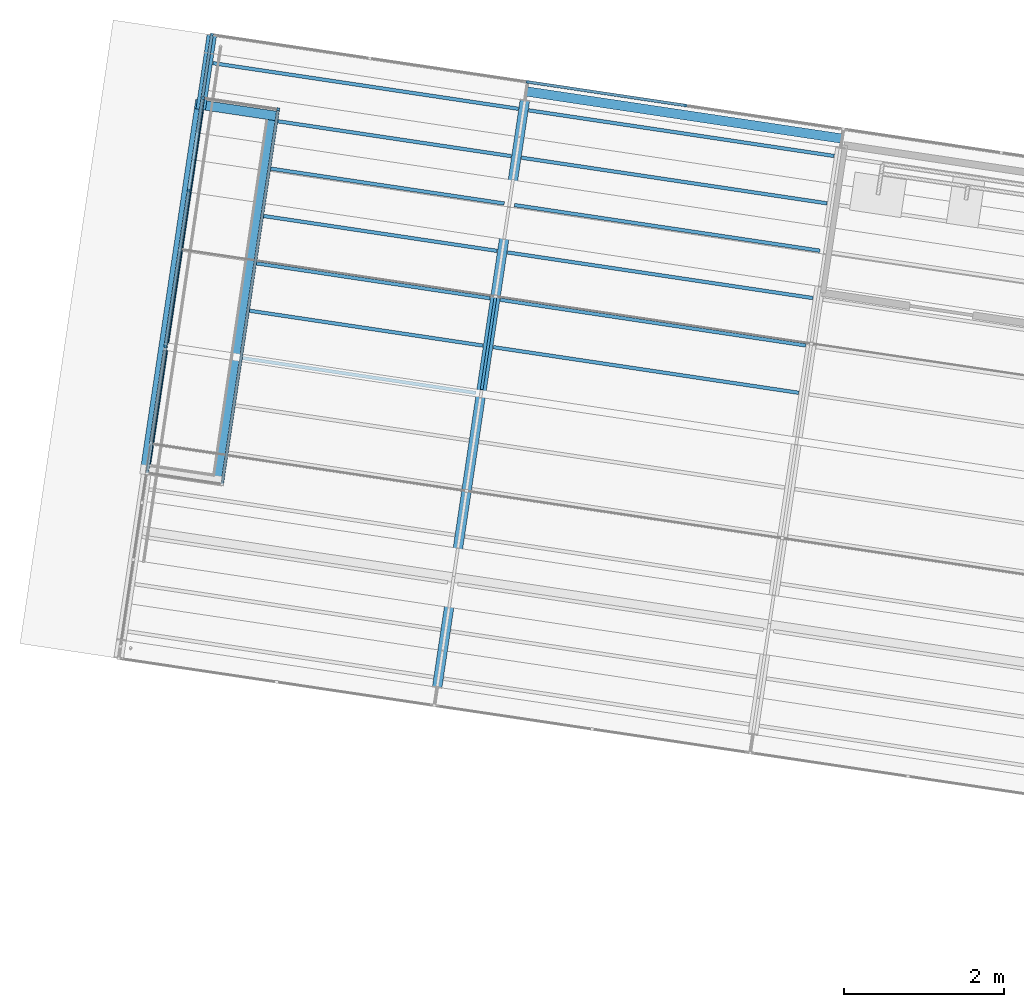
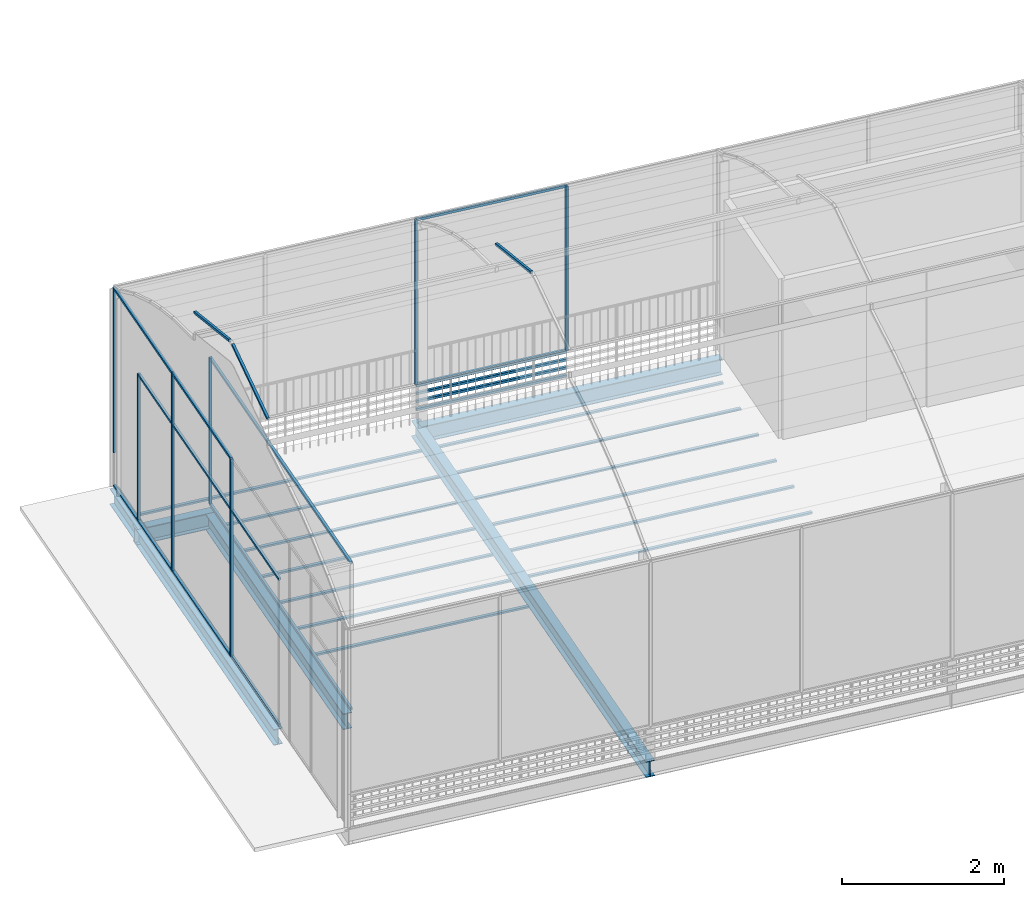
# One storey, part 7 of 34: 30 members, 19 beams, 1 element without a shape of its own.
"""IFC4 building model written with IfcOpenShell, lengths in metres."""

from ifc_helpers import new_model, si_unit, direction, frame, origin_with_axes, place, context, subcontext, project, spatial, polyline, rectangle, i_section, outline, extrude, material, material_profile, profile_set, profile_usage, type_object, element, aggregate, save


model = new_model("IFC4")

# Units and contexts
model_context = context("Model", 3, precision=1e-05, world=origin_with_axes(), true_north=direction((0.0, 1.0)))
body_context = subcontext(model_context, "Body", "Model", "MODEL_VIEW")
ifc_project = project(units=[si_unit("VOLUMEUNIT", "CUBIC_METRE"), si_unit("LENGTHUNIT", "METRE"), si_unit("AREAUNIT", "SQUARE_METRE")], contexts=[model_context])

# Site, building, storey
site_placement = place(None, origin_with_axes())
site = spatial("IfcSite", under=ifc_project, at=site_placement, Name="Lares · Rua das Mercês · artigo 4771")
building_placement = place(site_placement, frame((12.0, 10.2, 13.9), z_axis=(0.0, 0.0, 1.0), x_axis=(0.989015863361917, -0.147809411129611, 0.0)))
building = spatial("IfcBuilding", under=site, at=building_placement, Name="Casa Sobreposta")
storey_placement = place(building_placement, frame((0.0, 0.0, 3.24), z_axis=(0.0, 0.0, 1.0), x_axis=(1.0, 0.0, 0.0)))
storey = spatial("IfcBuildingStorey", under=building, at=storey_placement, Name="01 · Jardim de inverno", Elevation=17.14)

# Beams
ifc_material_1 = material(Name="Aço pintado / Stahl lackiert", Category="steel")
ifc_material_profile_1 = material_profile(ifc_material_1, i_section(OverallWidth=0.12, OverallDepth=0.24, WebThickness=0.0062, FlangeThickness=0.0098))
ifc_profile_set_1 = profile_set([ifc_material_profile_1], Name="IPE240")
ifc_profile_usage_1 = profile_usage(ifc_profile_set_1)
beam_type = type_object("IfcBeamType", Name="IPE240 / steel", PredefinedType="NOTDEFINED", material=ifc_profile_set_1)
beam_1_placement = place(storey_placement, frame((4.0, 6.28, -0.152), z_axis=(1.0, 0.0, 0.0), x_axis=(0.0, -1.0, 0.0)))
element("IfcBeam", 1, at=beam_1_placement, inside=storey, type_object=beam_type, material=ifc_profile_usage_1, Name="Viga longitudinal 4 / 6.28", context=body_context, shape_type="SweptSolid", body=[
    extrude(i_section(OverallWidth=0.12, OverallDepth=0.24, WebThickness=0.0062, FlangeThickness=0.0098), origin_with_axes(), (0.0, 0.0, 1.0), 4.0),
])
ifc_profile_usage_2 = profile_usage(ifc_profile_set_1)
beam_2_placement = place(storey_placement, frame((0.0, 5.4525, -0.152), z_axis=(0.0, 1.0, 0.0), x_axis=(1.0, 0.0, 0.0)))
element("IfcBeam", 2, at=beam_2_placement, inside=storey, type_object=beam_type, material=ifc_profile_usage_2, Name="Viga transversal eixo 0", context=body_context, shape_type="SweptSolid", body=[
    extrude(i_section(OverallWidth=0.12, OverallDepth=0.24, WebThickness=0.0062, FlangeThickness=0.0098), origin_with_axes(), (0.0, 0.0, 1.0), 0.947500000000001),
])
ifc_profile_usage_3 = profile_usage(ifc_profile_set_1)
beam_3_placement = place(storey_placement, frame((4.0, -1.5, -0.152), z_axis=(0.0, 1.0, 0.0), x_axis=(1.0, 0.0, 0.0)))
element("IfcBeam", 3, at=beam_3_placement, inside=storey, type_object=beam_type, material=ifc_profile_usage_3, Name="Viga transversal eixo 4", context=body_context, shape_type="SweptSolid", body=[
    extrude(i_section(OverallWidth=0.12, OverallDepth=0.24, WebThickness=0.0062, FlangeThickness=0.0098), origin_with_axes(), (0.0, 0.0, 1.0), 7.9),
])
ifc_profile_usage_4 = profile_usage(ifc_profile_set_1)
beam_4_placement = place(storey_placement, frame((-0.02, 0.8275, -0.152), z_axis=(0.0, 1.0, 0.0), x_axis=(1.0, 0.0, 0.0)))
element("IfcBeam", 4, at=beam_4_placement, inside=storey, type_object=beam_type, material=ifc_profile_usage_4, Name="Longarina do vão 1", context=body_context, shape_type="SweptSolid", body=[
    extrude(i_section(OverallWidth=0.12, OverallDepth=0.24, WebThickness=0.0062, FlangeThickness=0.0098), origin_with_axes(), (0.0, 0.0, 1.0), 4.745),
])
ifc_profile_usage_5 = profile_usage(ifc_profile_set_1)
beam_5_placement = place(storey_placement, frame((0.9, 0.8275, -0.152), z_axis=(0.0, 1.0, 0.0), x_axis=(1.0, 0.0, 0.0)))
element("IfcBeam", 5, at=beam_5_placement, inside=storey, type_object=beam_type, material=ifc_profile_usage_5, Name="Longarina do vão 1", context=body_context, shape_type="SweptSolid", body=[
    extrude(i_section(OverallWidth=0.12, OverallDepth=0.24, WebThickness=0.0062, FlangeThickness=0.0098), origin_with_axes(), (0.0, 0.0, 1.0), 4.745),
])
ifc_profile_usage_6 = profile_usage(ifc_profile_set_1)
beam_6_placement = place(storey_placement, frame((-0.08, 5.5125, -0.152), z_axis=(1.0, 0.0, 0.0), x_axis=(0.0, -1.0, 0.0)))
element("IfcBeam", 6, at=beam_6_placement, inside=storey, type_object=beam_type, material=ifc_profile_usage_6, Name="Cabeceira do vão 1", context=body_context, shape_type="SweptSolid", body=[
    extrude(i_section(OverallWidth=0.12, OverallDepth=0.24, WebThickness=0.0062, FlangeThickness=0.0098), origin_with_axes(), (0.0, 0.0, 1.0), 1.04),
])

# Members
ifc_material_profile_2 = material_profile(ifc_material_1, rectangle(XDim=0.035, YDim=0.035))
ifc_profile_set_2 = profile_set([ifc_material_profile_2], Name="R0.035")
ifc_profile_usage_7 = profile_usage(ifc_profile_set_2)
member_type = type_object("IfcMemberType", Name="R0.035 / steel", PredefinedType="NOTDEFINED", material=ifc_profile_set_2)
member_1_placement = place(storey_placement, frame((0.0, 6.4, 0.5), z_axis=(0.0, 0.0, 1.0), x_axis=(1.0, 0.0, 0.0)))
element("IfcMember", 7, at=member_1_placement, inside=storey, type_object=member_type, material=ifc_profile_usage_7, Name="Estufa norte 1 · montante", context=body_context, shape_type="SweptSolid", body=[
    extrude(rectangle(XDim=0.035, YDim=0.035), origin_with_axes(), (0.0, 0.0, 1.0), 2.48),
])
ifc_profile_usage_8 = profile_usage(ifc_profile_set_2)
member_2_placement = place(storey_placement, frame((4.0, 6.4, 0.5), z_axis=(0.0, 0.0, 1.0), x_axis=(1.0, 0.0, 0.0)))
element("IfcMember", 8, at=member_2_placement, inside=storey, type_object=member_type, material=ifc_profile_usage_8, context=body_context, shape_type="SweptSolid", body=[
    extrude(rectangle(XDim=0.035, YDim=0.035), origin_with_axes(), (0.0, 0.0, 1.0), 2.48),
])
ifc_profile_usage_9 = profile_usage(ifc_profile_set_2)
member_3_placement = place(storey_placement, frame((4.0, 6.4, 0.5), z_axis=(0.0, 0.0, 1.0), x_axis=(1.0, 0.0, 0.0)))
element("IfcMember", 9, at=member_3_placement, inside=storey, type_object=member_type, material=ifc_profile_usage_9, context=body_context, shape_type="SweptSolid", body=[
    extrude(rectangle(XDim=0.035, YDim=0.035), origin_with_axes(), (0.0, 0.0, 1.0), 2.48),
])
ifc_profile_usage_10 = profile_usage(ifc_profile_set_2)
member_4_placement = place(storey_placement, frame((6.0, 6.4, 0.5), z_axis=(0.0, 0.0, 1.0), x_axis=(1.0, 0.0, 0.0)))
element("IfcMember", 10, at=member_4_placement, inside=storey, type_object=member_type, material=ifc_profile_usage_10, context=body_context, shape_type="SweptSolid", body=[
    extrude(rectangle(XDim=0.035, YDim=0.035), origin_with_axes(), (0.0, 0.0, 1.0), 2.48),
])
ifc_profile_usage_11 = profile_usage(ifc_profile_set_2)
member_5_placement = place(storey_placement, frame((4.0, 6.4, 0.5), z_axis=(1.0, 0.0, 0.0), x_axis=(0.0, -1.0, 0.0)))
element("IfcMember", 11, at=member_5_placement, inside=storey, type_object=member_type, material=ifc_profile_usage_11, Name="Estufa norte 3 · travessa", context=body_context, shape_type="SweptSolid", body=[
    extrude(rectangle(XDim=0.035, YDim=0.035), origin_with_axes(), (0.0, 0.0, 1.0), 2.0),
])
ifc_profile_usage_12 = profile_usage(ifc_profile_set_2)
member_6_placement = place(storey_placement, frame((4.0, 6.4, 2.98), z_axis=(1.0, 0.0, 0.0), x_axis=(0.0, -1.0, 0.0)))
element("IfcMember", 12, at=member_6_placement, inside=storey, type_object=member_type, material=ifc_profile_usage_12, Name="Estufa norte 3 · travessa", context=body_context, shape_type="SweptSolid", body=[
    extrude(rectangle(XDim=0.035, YDim=0.035), origin_with_axes(), (0.0, 0.0, 1.0), 2.0),
])
ifc_profile_usage_13 = profile_usage(ifc_profile_set_2)
member_7_placement = place(storey_placement, frame((4.0, 6.4, 0.12), z_axis=(1.0, 0.0, 0.0), x_axis=(0.0, -1.0, 0.0)))
element("IfcMember", 13, at=member_7_placement, inside=storey, type_object=member_type, material=ifc_profile_usage_13, Name="Entrada de ar norte 3", context=body_context, shape_type="SweptSolid", body=[
    extrude(rectangle(XDim=0.035, YDim=0.035), origin_with_axes(), (0.0, 0.0, 1.0), 2.0),
])
ifc_profile_usage_14 = profile_usage(ifc_profile_set_2)
member_8_placement = place(storey_placement, frame((4.0, 6.4, 0.24), z_axis=(1.0, 0.0, 0.0), x_axis=(0.0, -1.0, 0.0)))
element("IfcMember", 14, at=member_8_placement, inside=storey, type_object=member_type, material=ifc_profile_usage_14, Name="Entrada de ar norte 3", context=body_context, shape_type="SweptSolid", body=[
    extrude(rectangle(XDim=0.035, YDim=0.035), origin_with_axes(), (0.0, 0.0, 1.0), 2.0),
])
ifc_profile_usage_15 = profile_usage(ifc_profile_set_2)
member_9_placement = place(storey_placement, frame((4.0, 6.4, 0.36), z_axis=(1.0, 0.0, 0.0), x_axis=(0.0, -1.0, 0.0)))
element("IfcMember", 15, at=member_9_placement, inside=storey, type_object=member_type, material=ifc_profile_usage_15, Name="Entrada de ar norte 3", context=body_context, shape_type="SweptSolid", body=[
    extrude(rectangle(XDim=0.035, YDim=0.035), origin_with_axes(), (0.0, 0.0, 1.0), 2.0),
])
ifc_profile_usage_16 = profile_usage(ifc_profile_set_2)
member_10_placement = place(storey_placement, frame((4.0, 6.4, 0.48), z_axis=(1.0, 0.0, 0.0), x_axis=(0.0, -1.0, 0.0)))
element("IfcMember", 16, at=member_10_placement, inside=storey, type_object=member_type, material=ifc_profile_usage_16, Name="Entrada de ar norte 3", context=body_context, shape_type="SweptSolid", body=[
    extrude(rectangle(XDim=0.035, YDim=0.035), origin_with_axes(), (0.0, 0.0, 1.0), 2.0),
])
ifc_profile_usage_17 = profile_usage(ifc_profile_set_2)
member_11_placement = place(storey_placement, frame((6.0, 6.4, 0.5), z_axis=(0.0, 0.0, 1.0), x_axis=(1.0, 0.0, 0.0)))
element("IfcMember", 17, at=member_11_placement, inside=storey, type_object=member_type, material=ifc_profile_usage_17, context=body_context, shape_type="SweptSolid", body=[
    extrude(rectangle(XDim=0.035, YDim=0.035), origin_with_axes(), (0.0, 0.0, 1.0), 2.48),
])
ifc_profile_usage_18 = profile_usage(ifc_profile_set_2)
member_12_placement = place(storey_placement, frame((0.0, 2.45, 0.0), z_axis=(0.0, 0.0, 1.0), x_axis=(1.0, 0.0, 0.0)))
element("IfcMember", 18, at=member_12_placement, inside=storey, type_object=member_type, material=ifc_profile_usage_18, context=body_context, shape_type="SweptSolid", body=[
    extrude(rectangle(XDim=0.035, YDim=0.035), origin_with_axes(), (0.0, 0.0, 1.0), 2.98),
])
ifc_profile_usage_19 = profile_usage(ifc_profile_set_2)
member_13_placement = place(storey_placement, frame((0.0, 2.45, 0.0), z_axis=(0.0, 0.0, 1.0), x_axis=(1.0, 0.0, 0.0)))
element("IfcMember", 19, at=member_13_placement, inside=storey, type_object=member_type, material=ifc_profile_usage_19, context=body_context, shape_type="SweptSolid", body=[
    extrude(rectangle(XDim=0.035, YDim=0.035), origin_with_axes(), (0.0, 0.0, 1.0), 2.98),
])
ifc_profile_usage_20 = profile_usage(ifc_profile_set_2)
member_14_placement = place(storey_placement, frame((0.0, 4.425, 0.0), z_axis=(0.0, 0.0, 1.0), x_axis=(1.0, 0.0, 0.0)))
element("IfcMember", 20, at=member_14_placement, inside=storey, type_object=member_type, material=ifc_profile_usage_20, context=body_context, shape_type="SweptSolid", body=[
    extrude(rectangle(XDim=0.035, YDim=0.035), origin_with_axes(), (0.0, 0.0, 1.0), 2.98),
])
ifc_profile_usage_21 = profile_usage(ifc_profile_set_2)
member_15_placement = place(storey_placement, frame((0.0, 2.45, 0.0), z_axis=(0.0, 1.0, 0.0), x_axis=(1.0, 0.0, 0.0)))
element("IfcMember", 21, at=member_15_placement, inside=storey, type_object=member_type, material=ifc_profile_usage_21, Name="Estufa poente 3 · travessa", context=body_context, shape_type="SweptSolid", body=[
    extrude(rectangle(XDim=0.035, YDim=0.035), origin_with_axes(), (0.0, 0.0, 1.0), 1.975),
])
ifc_profile_usage_22 = profile_usage(ifc_profile_set_2)
member_16_placement = place(storey_placement, frame((0.0, 2.45, 2.98), z_axis=(0.0, 1.0, 0.0), x_axis=(1.0, 0.0, 0.0)))
element("IfcMember", 22, at=member_16_placement, inside=storey, type_object=member_type, material=ifc_profile_usage_22, Name="Estufa poente 3 · travessa", context=body_context, shape_type="SweptSolid", body=[
    extrude(rectangle(XDim=0.035, YDim=0.035), origin_with_axes(), (0.0, 0.0, 1.0), 1.975),
])
ifc_profile_usage_23 = profile_usage(ifc_profile_set_2)
member_17_placement = place(storey_placement, frame((0.0, 4.425, 0.0), z_axis=(0.0, 0.0, 1.0), x_axis=(1.0, 0.0, 0.0)))
element("IfcMember", 23, at=member_17_placement, inside=storey, type_object=member_type, material=ifc_profile_usage_23, context=body_context, shape_type="SweptSolid", body=[
    extrude(rectangle(XDim=0.035, YDim=0.035), origin_with_axes(), (0.0, 0.0, 1.0), 2.98),
])
ifc_profile_usage_24 = profile_usage(ifc_profile_set_2)
member_18_placement = place(storey_placement, frame((0.0, 4.425, 0.0), z_axis=(0.0, 1.0, 0.0), x_axis=(1.0, 0.0, 0.0)))
element("IfcMember", 24, at=member_18_placement, inside=storey, type_object=member_type, material=ifc_profile_usage_24, Name="Estufa poente 4 · travessa", context=body_context, shape_type="SweptSolid", body=[
    extrude(rectangle(XDim=0.035, YDim=0.035), origin_with_axes(), (0.0, 0.0, 1.0), 1.975),
])
ifc_profile_usage_25 = profile_usage(ifc_profile_set_2)
member_19_placement = place(storey_placement, frame((0.0, 4.425, 2.98), z_axis=(0.0, 1.0, 0.0), x_axis=(1.0, 0.0, 0.0)))
element("IfcMember", 25, at=member_19_placement, inside=storey, type_object=member_type, material=ifc_profile_usage_25, Name="Estufa poente 4 · travessa", context=body_context, shape_type="SweptSolid", body=[
    extrude(rectangle(XDim=0.035, YDim=0.035), origin_with_axes(), (0.0, 0.0, 1.0), 1.975),
])

# Roof, members
ifc_material_2 = material(Name="Vidro / Normalglas", Category="glass")
roof_placement = place(storey_placement, frame((0.0, 0.0, -3.24), z_axis=(0.0, 0.0, 1.0), x_axis=(1.0, 0.0, 0.0)))
roof = element("IfcRoof", 26, at=roof_placement, inside=storey, material=ifc_material_2, Name="Cobertura translúcida da estufa", PredefinedType="BARREL_ROOF")
ifc_profile_usage_26 = profile_usage(ifc_profile_set_2)
member_20_placement = place(roof_placement, frame((0.0, 1.22042020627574, 7.62067689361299), z_axis=(0.0, 0.960073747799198, 0.279747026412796), x_axis=(1.0, 0.0, 0.0)))
member_20 = element("IfcMember", 27, at=member_20_placement, type_object=member_type, material=ifc_profile_usage_26, Name="Arco estufa 0/7", context=body_context, shape_type="SweptSolid", body=[
    extrude(rectangle(XDim=0.035, YDim=0.035), origin_with_axes(), (0.0, 0.0, 1.0), 1.23148937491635),
])
ifc_profile_usage_27 = profile_usage(ifc_profile_set_2)
member_21_placement = place(roof_placement, frame((0.0, 2.49770027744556, 7.96518238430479), z_axis=(0.0, 0.96007374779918, -0.279747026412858), x_axis=(1.0, 0.0, 0.0)))
member_21 = element("IfcMember", 28, at=member_21_placement, type_object=member_type, material=ifc_profile_usage_27, Name="Arco estufa 0/9", context=body_context, shape_type="SweptSolid", body=[
    extrude(rectangle(XDim=0.035, YDim=0.035), origin_with_axes(), (0.0, 0.0, 1.0), 1.23148937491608),
])
ifc_profile_usage_28 = profile_usage(ifc_profile_set_2)
member_22_placement = place(roof_placement, frame((4.0, 2.49770027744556, 7.96518238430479), z_axis=(0.0, 0.96007374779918, -0.279747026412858), x_axis=(1.0, 0.0, 0.0)))
member_22 = element("IfcMember", 29, at=member_22_placement, type_object=member_type, material=ifc_profile_usage_28, Name="Arco estufa 4/9", context=body_context, shape_type="SweptSolid", body=[
    extrude(rectangle(XDim=0.035, YDim=0.035), origin_with_axes(), (0.0, 0.0, 1.0), 1.23148937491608),
])
aggregate(roof, [member_20, member_21, member_22])

# Members
ifc_profile_usage_29 = profile_usage(ifc_profile_set_2)
member_23_placement = place(storey_placement, frame((0.01, 5.6, 0.0), z_axis=(0.0, 0.0, 1.0), x_axis=(1.0, 0.0, 0.0)))
element("IfcMember", 30, at=member_23_placement, inside=storey, type_object=member_type, material=ifc_profile_usage_29, context=body_context, shape_type="SweptSolid", body=[
    extrude(rectangle(XDim=0.035, YDim=0.035), origin_with_axes(), (0.0, 0.0, 1.0), 2.2),
])
ifc_profile_usage_30 = profile_usage(ifc_profile_set_2)
member_24_placement = place(storey_placement, frame((0.01, 0.85, 0.0), z_axis=(0.0, 1.0, 0.0), x_axis=(1.0, 0.0, 0.0)))
element("IfcMember", 31, at=member_24_placement, inside=storey, type_object=member_type, material=ifc_profile_usage_30, Name="Caixa térmica 1 · west · travessa", context=body_context, shape_type="SweptSolid", body=[
    extrude(rectangle(XDim=0.035, YDim=0.035), origin_with_axes(), (0.0, 0.0, 1.0), 4.75),
])
ifc_profile_usage_31 = profile_usage(ifc_profile_set_2)
member_25_placement = place(storey_placement, frame((0.01, 0.85, 2.2), z_axis=(0.0, 1.0, 0.0), x_axis=(1.0, 0.0, 0.0)))
element("IfcMember", 32, at=member_25_placement, inside=storey, type_object=member_type, material=ifc_profile_usage_31, Name="Caixa térmica 1 · west · travessa", context=body_context, shape_type="SweptSolid", body=[
    extrude(rectangle(XDim=0.035, YDim=0.035), origin_with_axes(), (0.0, 0.0, 1.0), 4.75),
])
ifc_profile_usage_32 = profile_usage(ifc_profile_set_2)
member_26_placement = place(storey_placement, frame((0.96, 5.6, 0.0), z_axis=(0.0, 0.0, 1.0), x_axis=(1.0, 0.0, 0.0)))
element("IfcMember", 33, at=member_26_placement, inside=storey, type_object=member_type, material=ifc_profile_usage_32, context=body_context, shape_type="SweptSolid", body=[
    extrude(rectangle(XDim=0.035, YDim=0.035), origin_with_axes(), (0.0, 0.0, 1.0), 2.2),
])
ifc_profile_usage_33 = profile_usage(ifc_profile_set_2)
member_27_placement = place(storey_placement, frame((0.96, 0.85, 0.0), z_axis=(0.0, 1.0, 0.0), x_axis=(1.0, 0.0, 0.0)))
element("IfcMember", 34, at=member_27_placement, inside=storey, type_object=member_type, material=ifc_profile_usage_33, Name="Caixa térmica 1 · east · travessa", context=body_context, shape_type="SweptSolid", body=[
    extrude(rectangle(XDim=0.035, YDim=0.035), origin_with_axes(), (0.0, 0.0, 1.0), 4.75),
])
ifc_profile_usage_34 = profile_usage(ifc_profile_set_2)
member_28_placement = place(storey_placement, frame((0.96, 0.85, 2.2), z_axis=(0.0, 1.0, 0.0), x_axis=(1.0, 0.0, 0.0)))
element("IfcMember", 35, at=member_28_placement, inside=storey, type_object=member_type, material=ifc_profile_usage_34, Name="Caixa térmica 1 · east · travessa", context=body_context, shape_type="SweptSolid", body=[
    extrude(rectangle(XDim=0.035, YDim=0.035), origin_with_axes(), (0.0, 0.0, 1.0), 4.75),
])
ifc_profile_usage_35 = profile_usage(ifc_profile_set_2)
member_29_placement = place(storey_placement, frame((0.01, 5.6, 0.0), z_axis=(0.0, 0.0, 1.0), x_axis=(1.0, 0.0, 0.0)))
element("IfcMember", 36, at=member_29_placement, inside=storey, type_object=member_type, material=ifc_profile_usage_35, context=body_context, shape_type="SweptSolid", body=[
    extrude(rectangle(XDim=0.035, YDim=0.035), origin_with_axes(), (0.0, 0.0, 1.0), 2.2),
])
ifc_profile_usage_36 = profile_usage(ifc_profile_set_2)
member_30_placement = place(storey_placement, frame((0.96, 5.6, 0.0), z_axis=(0.0, 0.0, 1.0), x_axis=(1.0, 0.0, 0.0)))
element("IfcMember", 37, at=member_30_placement, inside=storey, type_object=member_type, material=ifc_profile_usage_36, context=body_context, shape_type="SweptSolid", body=[
    extrude(rectangle(XDim=0.035, YDim=0.035), origin_with_axes(), (0.0, 0.0, 1.0), 2.2),
])

# Beams
ifc_material_3 = material(Name="Madeira / Bauholz", Category="wood")
ifc_material_profile_3 = material_profile(ifc_material_3, outline(polyline([(0.022225, -0.12), (0.022225, -0.092), (-0.022225, -0.092), (-0.022225, -0.12), (0.022225, -0.12)])))
ifc_material_4 = material(Name="OSB", Category="wood")
ifc_material_profile_4 = material_profile(ifc_material_4, outline(polyline([(0.0047625, -0.092), (0.0047625, 0.092), (-0.0047625, 0.092), (-0.0047625, -0.092), (0.0047625, -0.092)])))
ifc_material_profile_5 = material_profile(ifc_material_3, outline(polyline([(0.022225, 0.092), (0.022225, 0.12), (-0.022225, 0.12), (-0.022225, 0.092), (0.022225, 0.092)])))
ifc_profile_set_3 = profile_set([ifc_material_profile_3, ifc_material_profile_4, ifc_material_profile_5], Name="TJI240 · madeira / OSB")
ifc_profile_usage_37 = profile_usage(ifc_profile_set_3)
beam_7_placement = place(storey_placement, frame((0.97, 2.45, -0.152), z_axis=(1.0, 0.0, 0.0), x_axis=(0.0, 1.0, 0.0)))
element("IfcBeam", 38, at=beam_7_placement, inside=storey, material=ifc_profile_usage_37, Name="TJI240 · 0.970 / 2.45", context=body_context, shape_type="SweptSolid", body=[
    extrude(outline(polyline([(0.022225, -0.12), (0.022225, -0.092), (-0.022225, -0.092), (-0.022225, -0.12), (0.022225, -0.12)])), origin_with_axes(), (0.0, 0.0, 1.0), 2.965),
    extrude(outline(polyline([(0.022225, -0.12), (0.022225, -0.092), (-0.022225, -0.092), (-0.022225, -0.12), (0.022225, -0.12)])), origin_with_axes(), (0.0, 0.0, 1.0), 2.965),
    extrude(outline(polyline([(0.022225, -0.12), (0.022225, -0.092), (-0.022225, -0.092), (-0.022225, -0.12), (0.022225, -0.12)])), origin_with_axes(), (0.0, 0.0, 1.0), 2.965),
])
ifc_material_profile_6 = material_profile(ifc_material_3, outline(polyline([(0.022225, -0.12), (0.022225, -0.092), (-0.022225, -0.092), (-0.022225, -0.12), (0.022225, -0.12)])))
ifc_material_profile_7 = material_profile(ifc_material_4, outline(polyline([(0.0047625, -0.092), (0.0047625, 0.092), (-0.0047625, 0.092), (-0.0047625, -0.092), (0.0047625, -0.092)])))
ifc_material_profile_8 = material_profile(ifc_material_3, outline(polyline([(0.022225, 0.092), (0.022225, 0.12), (-0.022225, 0.12), (-0.022225, 0.092), (0.022225, 0.092)])))
ifc_profile_set_4 = profile_set([ifc_material_profile_6, ifc_material_profile_7, ifc_material_profile_8], Name="TJI240 · madeira / OSB")
ifc_profile_usage_38 = profile_usage(ifc_profile_set_4)
beam_8_placement = place(storey_placement, frame((0.97, 3.05, -0.152), z_axis=(1.0, 0.0, 0.0), x_axis=(0.0, 1.0, 0.0)))
element("IfcBeam", 39, at=beam_8_placement, inside=storey, material=ifc_profile_usage_38, Name="TJI240 · 0.970 / 3.05", context=body_context, shape_type="SweptSolid", body=[
    extrude(outline(polyline([(0.022225, -0.12), (0.022225, -0.092), (-0.022225, -0.092), (-0.022225, -0.12), (0.022225, -0.12)])), origin_with_axes(), (0.0, 0.0, 1.0), 2.965),
    extrude(outline(polyline([(0.022225, -0.12), (0.022225, -0.092), (-0.022225, -0.092), (-0.022225, -0.12), (0.022225, -0.12)])), origin_with_axes(), (0.0, 0.0, 1.0), 2.965),
    extrude(outline(polyline([(0.022225, -0.12), (0.022225, -0.092), (-0.022225, -0.092), (-0.022225, -0.12), (0.022225, -0.12)])), origin_with_axes(), (0.0, 0.0, 1.0), 2.965),
])
ifc_material_profile_9 = material_profile(ifc_material_3, outline(polyline([(0.022225, -0.12), (0.022225, -0.092), (-0.022225, -0.092), (-0.022225, -0.12), (0.022225, -0.12)])))
ifc_material_profile_10 = material_profile(ifc_material_4, outline(polyline([(0.0047625, -0.092), (0.0047625, 0.092), (-0.0047625, 0.092), (-0.0047625, -0.092), (0.0047625, -0.092)])))
ifc_material_profile_11 = material_profile(ifc_material_3, outline(polyline([(0.022225, 0.092), (0.022225, 0.12), (-0.022225, 0.12), (-0.022225, 0.092), (0.022225, 0.092)])))
ifc_profile_set_5 = profile_set([ifc_material_profile_9, ifc_material_profile_10, ifc_material_profile_11], Name="TJI240 · madeira / OSB")
ifc_profile_usage_39 = profile_usage(ifc_profile_set_5)
beam_9_placement = place(storey_placement, frame((4.065, 3.05, -0.152), z_axis=(1.0, 0.0, 0.0), x_axis=(0.0, 1.0, 0.0)))
element("IfcBeam", 40, at=beam_9_placement, inside=storey, material=ifc_profile_usage_39, Name="TJI240 · 4.065 / 3.05", context=body_context, shape_type="SweptSolid", body=[
    extrude(outline(polyline([(0.022225, -0.12), (0.022225, -0.092), (-0.022225, -0.092), (-0.022225, -0.12), (0.022225, -0.12)])), origin_with_axes(), (0.0, 0.0, 1.0), 3.87),
    extrude(outline(polyline([(0.022225, -0.12), (0.022225, -0.092), (-0.022225, -0.092), (-0.022225, -0.12), (0.022225, -0.12)])), origin_with_axes(), (0.0, 0.0, 1.0), 3.87),
    extrude(outline(polyline([(0.022225, -0.12), (0.022225, -0.092), (-0.022225, -0.092), (-0.022225, -0.12), (0.022225, -0.12)])), origin_with_axes(), (0.0, 0.0, 1.0), 3.87),
])
ifc_material_profile_12 = material_profile(ifc_material_3, outline(polyline([(0.022225, -0.12), (0.022225, -0.092), (-0.022225, -0.092), (-0.022225, -0.12), (0.022225, -0.12)])))
ifc_material_profile_13 = material_profile(ifc_material_4, outline(polyline([(0.0047625, -0.092), (0.0047625, 0.092), (-0.0047625, 0.092), (-0.0047625, -0.092), (0.0047625, -0.092)])))
ifc_material_profile_14 = material_profile(ifc_material_3, outline(polyline([(0.022225, 0.092), (0.022225, 0.12), (-0.022225, 0.12), (-0.022225, 0.092), (0.022225, 0.092)])))
ifc_profile_set_6 = profile_set([ifc_material_profile_12, ifc_material_profile_13, ifc_material_profile_14], Name="TJI240 · madeira / OSB")
ifc_profile_usage_40 = profile_usage(ifc_profile_set_6)
beam_10_placement = place(storey_placement, frame((0.97, 3.65, -0.152), z_axis=(1.0, 0.0, 0.0), x_axis=(0.0, 1.0, 0.0)))
element("IfcBeam", 41, at=beam_10_placement, inside=storey, material=ifc_profile_usage_40, Name="TJI240 · 0.970 / 3.65", context=body_context, shape_type="SweptSolid", body=[
    extrude(outline(polyline([(0.022225, -0.12), (0.022225, -0.092), (-0.022225, -0.092), (-0.022225, -0.12), (0.022225, -0.12)])), origin_with_axes(), (0.0, 0.0, 1.0), 2.965),
    extrude(outline(polyline([(0.022225, -0.12), (0.022225, -0.092), (-0.022225, -0.092), (-0.022225, -0.12), (0.022225, -0.12)])), origin_with_axes(), (0.0, 0.0, 1.0), 2.965),
    extrude(outline(polyline([(0.022225, -0.12), (0.022225, -0.092), (-0.022225, -0.092), (-0.022225, -0.12), (0.022225, -0.12)])), origin_with_axes(), (0.0, 0.0, 1.0), 2.965),
])
ifc_material_profile_15 = material_profile(ifc_material_3, outline(polyline([(0.022225, -0.12), (0.022225, -0.092), (-0.022225, -0.092), (-0.022225, -0.12), (0.022225, -0.12)])))
ifc_material_profile_16 = material_profile(ifc_material_4, outline(polyline([(0.0047625, -0.092), (0.0047625, 0.092), (-0.0047625, 0.092), (-0.0047625, -0.092), (0.0047625, -0.092)])))
ifc_material_profile_17 = material_profile(ifc_material_3, outline(polyline([(0.022225, 0.092), (0.022225, 0.12), (-0.022225, 0.12), (-0.022225, 0.092), (0.022225, 0.092)])))
ifc_profile_set_7 = profile_set([ifc_material_profile_15, ifc_material_profile_16, ifc_material_profile_17], Name="TJI240 · madeira / OSB")
ifc_profile_usage_41 = profile_usage(ifc_profile_set_7)
beam_11_placement = place(storey_placement, frame((4.065, 3.65, -0.152), z_axis=(1.0, 0.0, 0.0), x_axis=(0.0, 1.0, 0.0)))
element("IfcBeam", 42, at=beam_11_placement, inside=storey, material=ifc_profile_usage_41, Name="TJI240 · 4.065 / 3.65", context=body_context, shape_type="SweptSolid", body=[
    extrude(outline(polyline([(0.022225, -0.12), (0.022225, -0.092), (-0.022225, -0.092), (-0.022225, -0.12), (0.022225, -0.12)])), origin_with_axes(), (0.0, 0.0, 1.0), 3.87),
    extrude(outline(polyline([(0.022225, -0.12), (0.022225, -0.092), (-0.022225, -0.092), (-0.022225, -0.12), (0.022225, -0.12)])), origin_with_axes(), (0.0, 0.0, 1.0), 3.87),
    extrude(outline(polyline([(0.022225, -0.12), (0.022225, -0.092), (-0.022225, -0.092), (-0.022225, -0.12), (0.022225, -0.12)])), origin_with_axes(), (0.0, 0.0, 1.0), 3.87),
])
ifc_material_profile_18 = material_profile(ifc_material_3, outline(polyline([(0.022225, -0.12), (0.022225, -0.092), (-0.022225, -0.092), (-0.022225, -0.12), (0.022225, -0.12)])))
ifc_material_profile_19 = material_profile(ifc_material_4, outline(polyline([(0.0047625, -0.092), (0.0047625, 0.092), (-0.0047625, 0.092), (-0.0047625, -0.092), (0.0047625, -0.092)])))
ifc_material_profile_20 = material_profile(ifc_material_3, outline(polyline([(0.022225, 0.092), (0.022225, 0.12), (-0.022225, 0.12), (-0.022225, 0.092), (0.022225, 0.092)])))
ifc_profile_set_8 = profile_set([ifc_material_profile_18, ifc_material_profile_19, ifc_material_profile_20], Name="TJI240 · madeira / OSB")
ifc_profile_usage_42 = profile_usage(ifc_profile_set_8)
beam_12_placement = place(storey_placement, frame((0.97, 4.25, -0.152), z_axis=(1.0, 0.0, 0.0), x_axis=(0.0, 1.0, 0.0)))
element("IfcBeam", 43, at=beam_12_placement, inside=storey, material=ifc_profile_usage_42, Name="TJI240 · 0.970 / 4.25", context=body_context, shape_type="SweptSolid", body=[
    extrude(outline(polyline([(0.022225, -0.12), (0.022225, -0.092), (-0.022225, -0.092), (-0.022225, -0.12), (0.022225, -0.12)])), origin_with_axes(), (0.0, 0.0, 1.0), 2.965),
    extrude(outline(polyline([(0.022225, -0.12), (0.022225, -0.092), (-0.022225, -0.092), (-0.022225, -0.12), (0.022225, -0.12)])), origin_with_axes(), (0.0, 0.0, 1.0), 2.965),
    extrude(outline(polyline([(0.022225, -0.12), (0.022225, -0.092), (-0.022225, -0.092), (-0.022225, -0.12), (0.022225, -0.12)])), origin_with_axes(), (0.0, 0.0, 1.0), 2.965),
])
ifc_material_profile_21 = material_profile(ifc_material_3, outline(polyline([(0.022225, -0.12), (0.022225, -0.092), (-0.022225, -0.092), (-0.022225, -0.12), (0.022225, -0.12)])))
ifc_material_profile_22 = material_profile(ifc_material_4, outline(polyline([(0.0047625, -0.092), (0.0047625, 0.092), (-0.0047625, 0.092), (-0.0047625, -0.092), (0.0047625, -0.092)])))
ifc_material_profile_23 = material_profile(ifc_material_3, outline(polyline([(0.022225, 0.092), (0.022225, 0.12), (-0.022225, 0.12), (-0.022225, 0.092), (0.022225, 0.092)])))
ifc_profile_set_9 = profile_set([ifc_material_profile_21, ifc_material_profile_22, ifc_material_profile_23], Name="TJI240 · madeira / OSB")
ifc_profile_usage_43 = profile_usage(ifc_profile_set_9)
beam_13_placement = place(storey_placement, frame((4.065, 4.25, -0.152), z_axis=(1.0, 0.0, 0.0), x_axis=(0.0, 1.0, 0.0)))
element("IfcBeam", 44, at=beam_13_placement, inside=storey, material=ifc_profile_usage_43, Name="TJI240 · 4.065 / 4.25", context=body_context, shape_type="SweptSolid", body=[
    extrude(outline(polyline([(0.022225, -0.12), (0.022225, -0.092), (-0.022225, -0.092), (-0.022225, -0.12), (0.022225, -0.12)])), origin_with_axes(), (0.0, 0.0, 1.0), 3.87),
    extrude(outline(polyline([(0.022225, -0.12), (0.022225, -0.092), (-0.022225, -0.092), (-0.022225, -0.12), (0.022225, -0.12)])), origin_with_axes(), (0.0, 0.0, 1.0), 3.87),
    extrude(outline(polyline([(0.022225, -0.12), (0.022225, -0.092), (-0.022225, -0.092), (-0.022225, -0.12), (0.022225, -0.12)])), origin_with_axes(), (0.0, 0.0, 1.0), 3.87),
])
ifc_material_profile_24 = material_profile(ifc_material_3, outline(polyline([(0.022225, -0.12), (0.022225, -0.092), (-0.022225, -0.092), (-0.022225, -0.12), (0.022225, -0.12)])))
ifc_material_profile_25 = material_profile(ifc_material_4, outline(polyline([(0.0047625, -0.092), (0.0047625, 0.092), (-0.0047625, 0.092), (-0.0047625, -0.092), (0.0047625, -0.092)])))
ifc_material_profile_26 = material_profile(ifc_material_3, outline(polyline([(0.022225, 0.092), (0.022225, 0.12), (-0.022225, 0.12), (-0.022225, 0.092), (0.022225, 0.092)])))
ifc_profile_set_10 = profile_set([ifc_material_profile_24, ifc_material_profile_25, ifc_material_profile_26], Name="TJI240 · madeira / OSB")
ifc_profile_usage_44 = profile_usage(ifc_profile_set_10)
beam_14_placement = place(storey_placement, frame((0.97, 4.85, -0.152), z_axis=(1.0, 0.0, 0.0), x_axis=(0.0, 1.0, 0.0)))
element("IfcBeam", 45, at=beam_14_placement, inside=storey, material=ifc_profile_usage_44, Name="TJI240 · 0.970 / 4.85", context=body_context, shape_type="SweptSolid", body=[
    extrude(outline(polyline([(0.022225, -0.12), (0.022225, -0.092), (-0.022225, -0.092), (-0.022225, -0.12), (0.022225, -0.12)])), origin_with_axes(), (0.0, 0.0, 1.0), 2.965),
    extrude(outline(polyline([(0.022225, -0.12), (0.022225, -0.092), (-0.022225, -0.092), (-0.022225, -0.12), (0.022225, -0.12)])), origin_with_axes(), (0.0, 0.0, 1.0), 2.965),
    extrude(outline(polyline([(0.022225, -0.12), (0.022225, -0.092), (-0.022225, -0.092), (-0.022225, -0.12), (0.022225, -0.12)])), origin_with_axes(), (0.0, 0.0, 1.0), 2.965),
])
ifc_material_profile_27 = material_profile(ifc_material_3, outline(polyline([(0.022225, -0.12), (0.022225, -0.092), (-0.022225, -0.092), (-0.022225, -0.12), (0.022225, -0.12)])))
ifc_material_profile_28 = material_profile(ifc_material_4, outline(polyline([(0.0047625, -0.092), (0.0047625, 0.092), (-0.0047625, 0.092), (-0.0047625, -0.092), (0.0047625, -0.092)])))
ifc_material_profile_29 = material_profile(ifc_material_3, outline(polyline([(0.022225, 0.092), (0.022225, 0.12), (-0.022225, 0.12), (-0.022225, 0.092), (0.022225, 0.092)])))
ifc_profile_set_11 = profile_set([ifc_material_profile_27, ifc_material_profile_28, ifc_material_profile_29], Name="TJI240 · madeira / OSB")
ifc_profile_usage_45 = profile_usage(ifc_profile_set_11)
beam_15_placement = place(storey_placement, frame((4.065, 4.85, -0.152), z_axis=(1.0, 0.0, 0.0), x_axis=(0.0, 1.0, 0.0)))
element("IfcBeam", 46, at=beam_15_placement, inside=storey, material=ifc_profile_usage_45, Name="TJI240 · 4.065 / 4.85", context=body_context, shape_type="SweptSolid", body=[
    extrude(outline(polyline([(0.022225, -0.12), (0.022225, -0.092), (-0.022225, -0.092), (-0.022225, -0.12), (0.022225, -0.12)])), origin_with_axes(), (0.0, 0.0, 1.0), 3.87),
    extrude(outline(polyline([(0.022225, -0.12), (0.022225, -0.092), (-0.022225, -0.092), (-0.022225, -0.12), (0.022225, -0.12)])), origin_with_axes(), (0.0, 0.0, 1.0), 3.87),
    extrude(outline(polyline([(0.022225, -0.12), (0.022225, -0.092), (-0.022225, -0.092), (-0.022225, -0.12), (0.022225, -0.12)])), origin_with_axes(), (0.0, 0.0, 1.0), 3.87),
])
ifc_material_profile_30 = material_profile(ifc_material_3, outline(polyline([(0.022225, -0.12), (0.022225, -0.092), (-0.022225, -0.092), (-0.022225, -0.12), (0.022225, -0.12)])))
ifc_material_profile_31 = material_profile(ifc_material_4, outline(polyline([(0.0047625, -0.092), (0.0047625, 0.092), (-0.0047625, 0.092), (-0.0047625, -0.092), (0.0047625, -0.092)])))
ifc_material_profile_32 = material_profile(ifc_material_3, outline(polyline([(0.022225, 0.092), (0.022225, 0.12), (-0.022225, 0.12), (-0.022225, 0.092), (0.022225, 0.092)])))
ifc_profile_set_12 = profile_set([ifc_material_profile_30, ifc_material_profile_31, ifc_material_profile_32], Name="TJI240 · madeira / OSB")
ifc_profile_usage_46 = profile_usage(ifc_profile_set_12)
beam_16_placement = place(storey_placement, frame((0.97, 5.45, -0.152), z_axis=(1.0, 0.0, 0.0), x_axis=(0.0, 1.0, 0.0)))
element("IfcBeam", 47, at=beam_16_placement, inside=storey, material=ifc_profile_usage_46, Name="TJI240 · 0.970 / 5.45", context=body_context, shape_type="SweptSolid", body=[
    extrude(outline(polyline([(0.022225, -0.12), (0.022225, -0.092), (-0.022225, -0.092), (-0.022225, -0.12), (0.022225, -0.12)])), origin_with_axes(), (0.0, 0.0, 1.0), 2.965),
    extrude(outline(polyline([(0.022225, -0.12), (0.022225, -0.092), (-0.022225, -0.092), (-0.022225, -0.12), (0.022225, -0.12)])), origin_with_axes(), (0.0, 0.0, 1.0), 2.965),
    extrude(outline(polyline([(0.022225, -0.12), (0.022225, -0.092), (-0.022225, -0.092), (-0.022225, -0.12), (0.022225, -0.12)])), origin_with_axes(), (0.0, 0.0, 1.0), 2.965),
])
ifc_material_profile_33 = material_profile(ifc_material_3, outline(polyline([(0.022225, -0.12), (0.022225, -0.092), (-0.022225, -0.092), (-0.022225, -0.12), (0.022225, -0.12)])))
ifc_material_profile_34 = material_profile(ifc_material_4, outline(polyline([(0.0047625, -0.092), (0.0047625, 0.092), (-0.0047625, 0.092), (-0.0047625, -0.092), (0.0047625, -0.092)])))
ifc_material_profile_35 = material_profile(ifc_material_3, outline(polyline([(0.022225, 0.092), (0.022225, 0.12), (-0.022225, 0.12), (-0.022225, 0.092), (0.022225, 0.092)])))
ifc_profile_set_13 = profile_set([ifc_material_profile_33, ifc_material_profile_34, ifc_material_profile_35], Name="TJI240 · madeira / OSB")
ifc_profile_usage_47 = profile_usage(ifc_profile_set_13)
beam_17_placement = place(storey_placement, frame((4.065, 5.45, -0.152), z_axis=(1.0, 0.0, 0.0), x_axis=(0.0, 1.0, 0.0)))
element("IfcBeam", 48, at=beam_17_placement, inside=storey, material=ifc_profile_usage_47, Name="TJI240 · 4.065 / 5.45", context=body_context, shape_type="SweptSolid", body=[
    extrude(outline(polyline([(0.022225, -0.12), (0.022225, -0.092), (-0.022225, -0.092), (-0.022225, -0.12), (0.022225, -0.12)])), origin_with_axes(), (0.0, 0.0, 1.0), 3.87),
    extrude(outline(polyline([(0.022225, -0.12), (0.022225, -0.092), (-0.022225, -0.092), (-0.022225, -0.12), (0.022225, -0.12)])), origin_with_axes(), (0.0, 0.0, 1.0), 3.87),
    extrude(outline(polyline([(0.022225, -0.12), (0.022225, -0.092), (-0.022225, -0.092), (-0.022225, -0.12), (0.022225, -0.12)])), origin_with_axes(), (0.0, 0.0, 1.0), 3.87),
])
ifc_material_profile_36 = material_profile(ifc_material_3, outline(polyline([(0.022225, -0.12), (0.022225, -0.092), (-0.022225, -0.092), (-0.022225, -0.12), (0.022225, -0.12)])))
ifc_material_profile_37 = material_profile(ifc_material_4, outline(polyline([(0.0047625, -0.092), (0.0047625, 0.092), (-0.0047625, 0.092), (-0.0047625, -0.092), (0.0047625, -0.092)])))
ifc_material_profile_38 = material_profile(ifc_material_3, outline(polyline([(0.022225, 0.092), (0.022225, 0.12), (-0.022225, 0.12), (-0.022225, 0.092), (0.022225, 0.092)])))
ifc_profile_set_14 = profile_set([ifc_material_profile_36, ifc_material_profile_37, ifc_material_profile_38], Name="TJI240 · madeira / OSB")
ifc_profile_usage_48 = profile_usage(ifc_profile_set_14)
beam_18_placement = place(storey_placement, frame((0.065, 6.05, -0.152), z_axis=(1.0, 0.0, 0.0), x_axis=(0.0, 1.0, 0.0)))
element("IfcBeam", 49, at=beam_18_placement, inside=storey, material=ifc_profile_usage_48, Name="TJI240 · 0.065 / 6.05", context=body_context, shape_type="SweptSolid", body=[
    extrude(outline(polyline([(0.022225, -0.12), (0.022225, -0.092), (-0.022225, -0.092), (-0.022225, -0.12), (0.022225, -0.12)])), origin_with_axes(), (0.0, 0.0, 1.0), 3.87),
    extrude(outline(polyline([(0.022225, -0.12), (0.022225, -0.092), (-0.022225, -0.092), (-0.022225, -0.12), (0.022225, -0.12)])), origin_with_axes(), (0.0, 0.0, 1.0), 3.87),
    extrude(outline(polyline([(0.022225, -0.12), (0.022225, -0.092), (-0.022225, -0.092), (-0.022225, -0.12), (0.022225, -0.12)])), origin_with_axes(), (0.0, 0.0, 1.0), 3.87),
])
ifc_material_profile_39 = material_profile(ifc_material_3, outline(polyline([(0.022225, -0.12), (0.022225, -0.092), (-0.022225, -0.092), (-0.022225, -0.12), (0.022225, -0.12)])))
ifc_material_profile_40 = material_profile(ifc_material_4, outline(polyline([(0.0047625, -0.092), (0.0047625, 0.092), (-0.0047625, 0.092), (-0.0047625, -0.092), (0.0047625, -0.092)])))
ifc_material_profile_41 = material_profile(ifc_material_3, outline(polyline([(0.022225, 0.092), (0.022225, 0.12), (-0.022225, 0.12), (-0.022225, 0.092), (0.022225, 0.092)])))
ifc_profile_set_15 = profile_set([ifc_material_profile_39, ifc_material_profile_40, ifc_material_profile_41], Name="TJI240 · madeira / OSB")
ifc_profile_usage_49 = profile_usage(ifc_profile_set_15)
beam_19_placement = place(storey_placement, frame((4.065, 6.05, -0.152), z_axis=(1.0, 0.0, 0.0), x_axis=(0.0, 1.0, 0.0)))
element("IfcBeam", 50, at=beam_19_placement, inside=storey, material=ifc_profile_usage_49, Name="TJI240 · 4.065 / 6.05", context=body_context, shape_type="SweptSolid", body=[
    extrude(outline(polyline([(0.022225, -0.12), (0.022225, -0.092), (-0.022225, -0.092), (-0.022225, -0.12), (0.022225, -0.12)])), origin_with_axes(), (0.0, 0.0, 1.0), 3.87),
    extrude(outline(polyline([(0.022225, -0.12), (0.022225, -0.092), (-0.022225, -0.092), (-0.022225, -0.12), (0.022225, -0.12)])), origin_with_axes(), (0.0, 0.0, 1.0), 3.87),
    extrude(outline(polyline([(0.022225, -0.12), (0.022225, -0.092), (-0.022225, -0.092), (-0.022225, -0.12), (0.022225, -0.12)])), origin_with_axes(), (0.0, 0.0, 1.0), 3.87),
])

save(model, "model.ifc")
